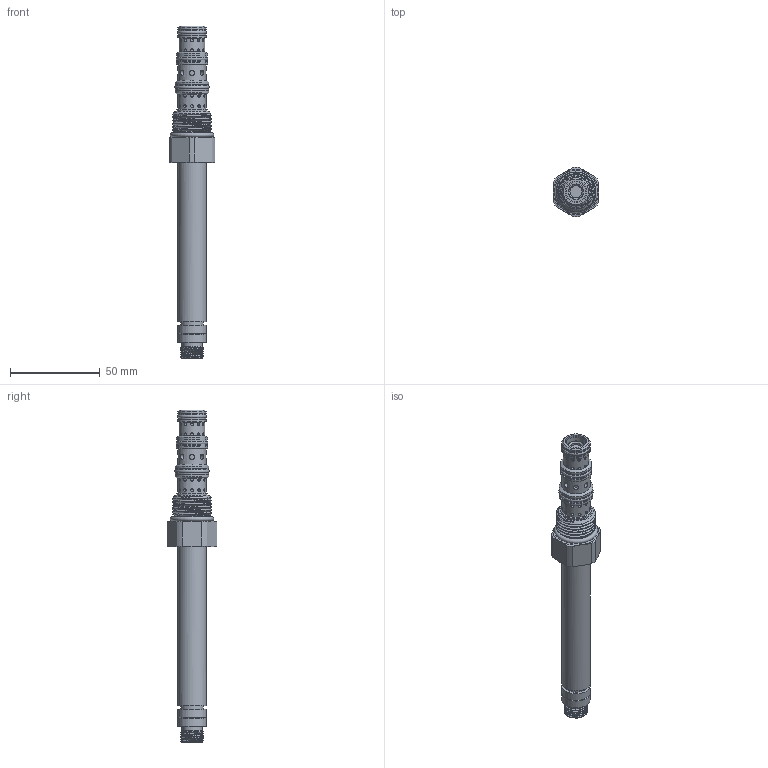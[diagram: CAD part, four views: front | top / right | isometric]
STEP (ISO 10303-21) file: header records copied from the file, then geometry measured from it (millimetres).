
FILE_DESCRIPTION(/* description */ (''),/* implementation_level */ '2;1');
FILE_NAME(/* name */ 'P:\EARS\EAR16xx\EAR1683 - catalog pages changes\Group1_Distribution 11_22_22\RTeck Agency_Tom\_step files\_Models\REF\HDGS4O00.stp',/* time_stamp */ '2023-01-05T14:09:19-06:00',/* author */ ('Michael'),/* organization */ (''),/* preprocessor_version */ 'ST-DEVELOPER v17.2',/* originating_system */ 'Autodesk Inventor 2019',/* authorisation */ '');
FILE_SCHEMA (('AUTOMOTIVE_DESIGN { 1 0 10303 214 3 1 1 }'));
Length unit declared in the file: inch
Products named in the file (1): HDGS4O00
Bounding box: 25.4 x 27.67 x 185.02 mm (x, y, z)
Volume: 42557.7 mm3; surface area: 14872.7 mm2
Topology: 1 solids, 2 shells, 267 faces, 695 edges, 505 vertices
Faces by surface type: cylinder 171, plane 45, cone 28, torus 13, bspline 10
Full cylindrical faces by diameter (mm): 1.6 x48, 2.794 x8, 6.756 x1, 8.788 x1, 11.11 x1, 11.176 x1, 11.913 x1, 12.7 x4, 12.827 x1, 12.992 x4, 14.3 x1, 14.592 x4, 14.732 x1, 15.392 x2, 15.723 x3, 15.85 x2, 15.875 x2, 16.129 x4, 16.967 x2, 17.056 x1, 17.323 x2, 17.399 x1, 18.567 x2, 18.86 x2, 19.621 x2, 22.225 x4
Entity records: 16715 total; most frequent: CARTESIAN_POINT 10226, ORIENTED_EDGE 1390, DIRECTION 1075, EDGE_CURVE 695, VERTEX_POINT 505, AXIS2_PLACEMENT_3D 468, EDGE_LOOP 355, B_SPLINE_CURVE_WITH_KNOTS 322
